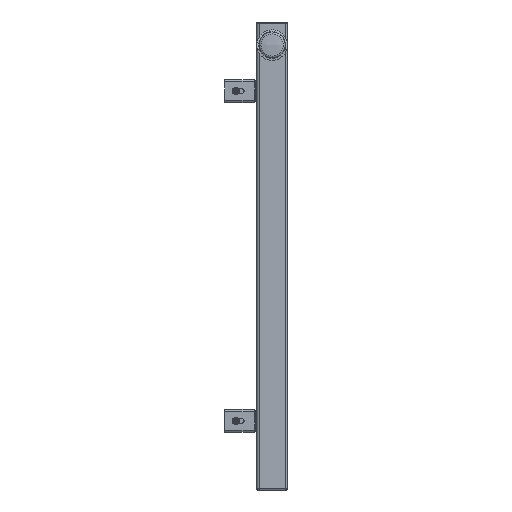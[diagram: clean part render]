
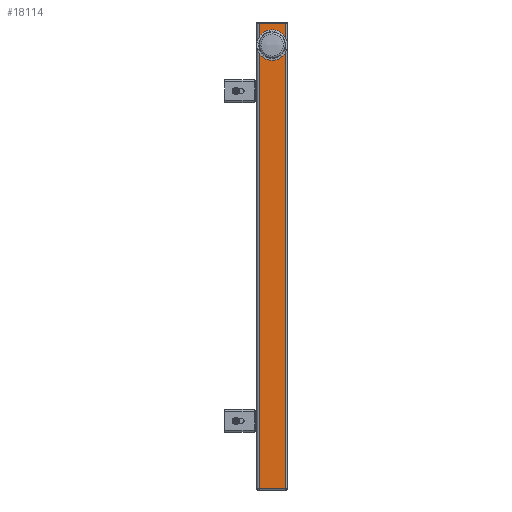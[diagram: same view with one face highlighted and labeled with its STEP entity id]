
A CAD part, left-side view. The second image highlights one B-rep face of the part: STEP entity #18114.
In plain terms, the highlighted planar face has unit normal (-1, 0, 0).
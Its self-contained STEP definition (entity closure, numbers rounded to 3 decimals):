
#17491=CARTESIAN_POINT('',(-40.,-17.0,1.5));
#17492=VERTEX_POINT('',#17491);
#17535=CARTESIAN_POINT('',(-40.,17.0,1.5));
#17536=VERTEX_POINT('',#17535);
#17553=CARTESIAN_POINT('',(-40.,-17.0,1.5));
#17554=DIRECTION('',(0.0,1.0,0.0));
#17555=VECTOR('',#17554,34.0);
#17556=LINE('',#17553,#17555);
#17557=EDGE_CURVE('',#17492,#17536,#17556,.T.);
#18061=CARTESIAN_POINT('',(-40.,17.0,608.5));
#18062=VERTEX_POINT('',#18061);
#18063=CARTESIAN_POINT('',(-40.,17.0,1.5));
#18064=DIRECTION('',(0.0,0.0,1.0));
#18065=VECTOR('',#18064,607.0);
#18066=LINE('',#18063,#18065);
#18067=EDGE_CURVE('',#17536,#18062,#18066,.T.);
#18080=CARTESIAN_POINT('',(-40.,-17.0,0.0));
#18081=DIRECTION('',(-1.0,0.0,0.0));
#18082=DIRECTION('',(0.0,0.0,1.0));
#18083=AXIS2_PLACEMENT_3D('',#18080,#18081,#18082);
#18084=PLANE('',#18083);
#18085=ORIENTED_EDGE('',*,*,#17557,.F.);
#18086=CARTESIAN_POINT('',(-40.,-17.0,608.5));
#18087=VERTEX_POINT('',#18086);
#18088=CARTESIAN_POINT('',(-40.,-17.0,1.5));
#18089=DIRECTION('',(0.0,0.0,1.0));
#18090=VECTOR('',#18089,607.0);
#18091=LINE('',#18088,#18090);
#18092=EDGE_CURVE('',#17492,#18087,#18091,.T.);
#18093=ORIENTED_EDGE('',*,*,#18092,.T.);
#18094=CARTESIAN_POINT('',(-40.,17.,608.5));
#18095=DIRECTION('',(0.0,-1.0,0.0));
#18096=VECTOR('',#18095,34.0);
#18097=LINE('',#18094,#18096);
#18098=EDGE_CURVE('',#18062,#18087,#18097,.T.);
#18099=ORIENTED_EDGE('',*,*,#18098,.F.);
#18100=ORIENTED_EDGE('',*,*,#18067,.F.);
#18101=EDGE_LOOP('',(#18085,#18093,#18099,#18100));
#18102=FACE_OUTER_BOUND('',#18101,.T.);
#18103=CARTESIAN_POINT('',(-40.,0.,595.0));
#18104=VERTEX_POINT('',#18103);
#18105=CARTESIAN_POINT('',(-40.,0.0,580.0));
#18106=DIRECTION('',(1.0,0.0,0.0));
#18107=DIRECTION('',(0.0,0.0,-1.0));
#18108=AXIS2_PLACEMENT_3D('',#18105,#18106,#18107);
#18109=CIRCLE('',#18108,15.0);
#18110=EDGE_CURVE('',#18104,#18104,#18109,.T.);
#18111=ORIENTED_EDGE('',*,*,#18110,.T.);
#18112=EDGE_LOOP('',(#18111));
#18113=FACE_BOUND('',#18112,.T.);
#18114=ADVANCED_FACE('',(#18102,#18113),#18084,.T.);
